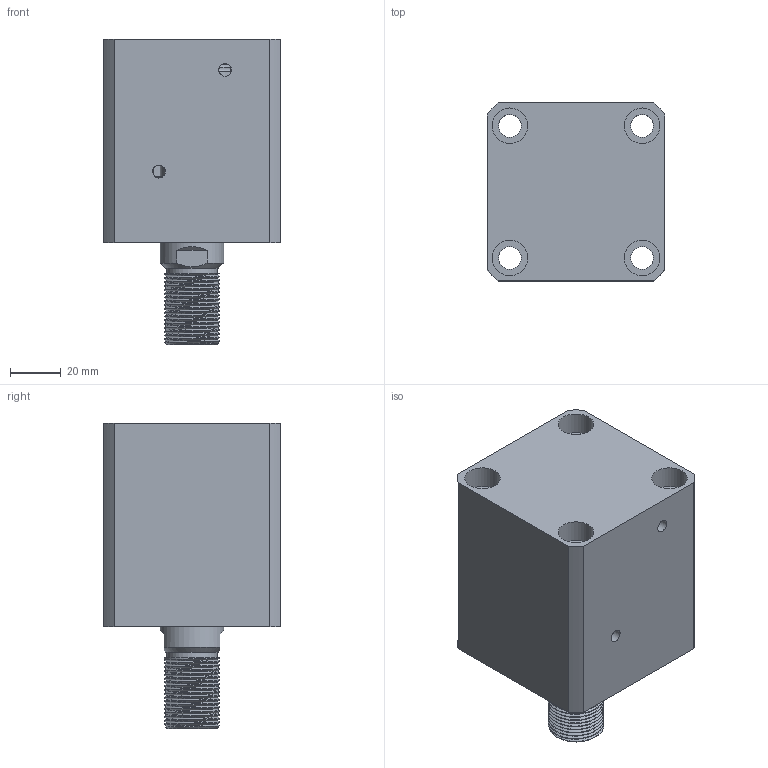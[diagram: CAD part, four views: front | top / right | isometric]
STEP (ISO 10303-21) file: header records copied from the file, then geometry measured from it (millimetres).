
FILE_DESCRIPTION(/* description */ (''),/* implementation_level */ '2;1');
FILE_NAME(/* name */ 'CHTB-sdma40x25w.stp',/* time_stamp */ '2022-04-29T17:43:24+08:00',/* author */ (''),/* organization */ (''),/* preprocessor_version */ 'ST-DEVELOPER v16.7',/* originating_system */ 'SIEMENS PLM Software NX 12.0',/* authorisation */ '');
FILE_SCHEMA (('AUTOMOTIVE_DESIGN { 1 0 10303 214 3 1 1 1 }'));
Length unit declared in the file: millimetre
Products named in the file (1): CHTB-sdma40x25w
Bounding box: 70 x 70 x 120 mm (x, y, z)
Volume: 353064.6 mm3; surface area: 76666.3 mm2
Topology: 3 solids, 4 shells, 506 faces, 1434 edges, 983 vertices
Faces by surface type: plane 327, extrusion 113, cylinder 42, torus 11, bspline 8, cone 5
Full cylindrical faces by diameter (mm): 4 x2, 4.2 x2, 5 x3, 9 x6, 14 x8, 20 x1, 25 x2, 29 x1, 34 x2, 40 x4, 45 x1
Entity records: 25270 total; most frequent: CARTESIAN_POINT 10164, ORIENTED_EDGE 2734, DIRECTION 1998, EDGE_CURVE 1367, VECTOR 1036, VERTEX_POINT 965, LINE 923, EDGE_LOOP 618
